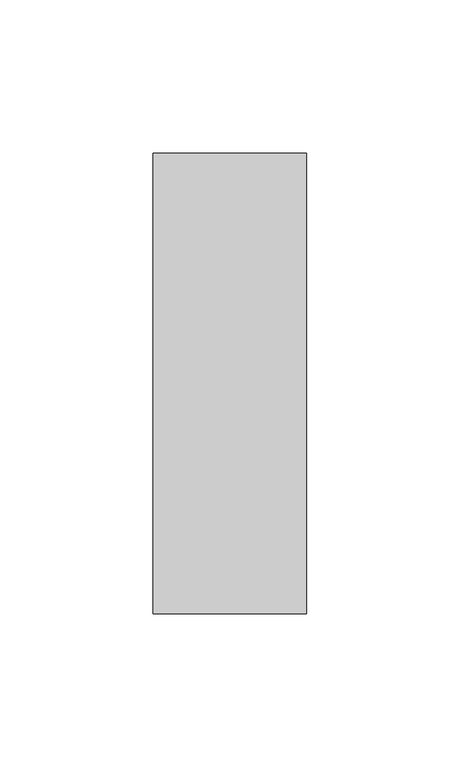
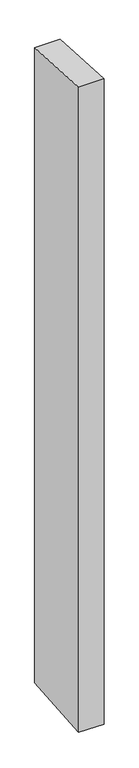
"""IFC4 building model written with IfcOpenShell, lengths in millimetres: member geometry, Прямоугольный импост : 50 x 150 мм."""

import ifcopenshell
import ifcopenshell.guid

model = None  # the IFC model being written
_history = None  # IfcOwnerHistory: only IFC2X3 demands one
_inside = {}  # id of a spatial element -> (the spatial element, [elements in it])
_under = {}  # id of a project, library or spatial element -> (it, [spatial elements below it])
_declared = {}  # id of a project -> (the project, [libraries it declares])
_typed = {}  # id of a type object -> (the type object, [elements of that type])
_made_of = {}  # id of a material, layer set ... -> (it, [elements and type objects made of it])


def new_model(schema):
    """Start an empty IFC model of exactly this schema.

    Asked for "IFC4X3", IfcOpenShell would pick the latest addendum, in which some entities
    have other attributes; the version numbers below select the first issue.
    IFC2X3 requires an IfcOwnerHistory on every rooted entity: one is made here for all.
    """
    global model, _history
    if schema == "IFC4X3":
        model = ifcopenshell.file(schema_version=(4, 3, 0, 0))
    else:
        model = ifcopenshell.file(schema=schema)
    _inside.clear()
    _under.clear()
    _declared.clear()
    _typed.clear()
    _made_of.clear()
    _history = None
    if model.schema == "IFC2X3":
        org = make("IfcOrganization", Name="unknown")
        user = make(
            "IfcPersonAndOrganization",
            ThePerson=make("IfcPerson", FamilyName="unknown"),
            TheOrganization=org,
        )
        app = make(
            "IfcApplication",
            ApplicationDeveloper=org,
            Version="unknown",
            ApplicationFullName="unknown",
            ApplicationIdentifier="unknown",
        )
        _history = make(
            "IfcOwnerHistory",
            OwningUser=user,
            OwningApplication=app,
            ChangeAction="ADDED",
            CreationDate=0,
        )
    return model


def make(cls, **values):
    """One entity of the class cls with the attributes given. An attribute that is None is left unset."""
    return model.create_entity(
        cls, **{name: value for name, value in values.items() if value is not None}
    )


def rooted(cls, **values):
    """An entity with a GlobalId (a new one), such as an element, a storey or a relation."""
    return make(cls, GlobalId=ifcopenshell.guid.new(), OwnerHistory=_history, **values)


def si_unit(unit_type, name, prefix=None):
    """IfcSIUnit, for example si_unit("LENGTHUNIT", "METRE", prefix="MILLI")."""
    return make("IfcSIUnit", UnitType=unit_type, Prefix=prefix, Name=name)


def assignment(units):
    """IfcUnitAssignment: the units of a project."""
    return None if units is None else make("IfcUnitAssignment", Units=units)


def point(xyz):
    """IfcCartesianPoint."""
    return None if xyz is None else make("IfcCartesianPoint", Coordinates=xyz)


def direction(xyz):
    """IfcDirection."""
    return None if xyz is None else make("IfcDirection", DirectionRatios=xyz)


def frame(location, z_axis=None, x_axis=None):
    """IfcAxis2Placement3D, a coordinate frame: its origin and axes. An axis left out is left unset."""
    return make(
        "IfcAxis2Placement3D",
        Location=point(location),
        Axis=direction(z_axis),
        RefDirection=direction(x_axis),
    )


def origin():
    """The frame at (0, 0, 0) with its axes left unset."""
    return frame((0.0, 0.0, 0.0))


def place(relative_to, where):
    """IfcLocalPlacement: puts the frame where relative to a parent placement (None: the world)."""
    return make(
        "IfcLocalPlacement", PlacementRelTo=relative_to, RelativePlacement=where
    )


def context(
    kind, dimensions, precision=None, world=None, true_north=None, identifier=None
):
    """IfcGeometricRepresentationContext, for example the 3D "Model" context."""
    return make(
        "IfcGeometricRepresentationContext",
        ContextIdentifier=identifier,
        ContextType=kind,
        CoordinateSpaceDimension=dimensions,
        Precision=precision,
        WorldCoordinateSystem=world,
        TrueNorth=true_north,
    )


def project(units=None, contexts=None):
    """IfcProject with its units and contexts."""
    return rooted(
        "IfcProject",
        Name="project",
        RepresentationContexts=contexts,
        UnitsInContext=assignment(units),
    )


def spatial(cls, under=None, at=None, **own):
    """A site, building, storey or space (cls), placed at a placement, below another one or the project."""
    s = rooted(cls, ObjectPlacement=at, **own)
    if under is not None:
        _under.setdefault(under.id(), (under, []))[1].append(s)
    return s


def faces_of(points, faces, orient=None, outer=None):
    """IfcFace entities. A face is a list of loops; a loop is a list of indices into points, from 0.

    orient and outer hold one flag for each loop. By default every Orientation is true, the
    first loop of a face is its IfcFaceOuterBound and the others are IfcFaceBound.
    """
    made = []
    for i, loops in enumerate(faces):
        bounds = []
        for j, loop in enumerate(loops):
            is_outer = j == 0 if outer is None else outer[i][j]
            bounds.append(
                make(
                    "IfcFaceOuterBound" if is_outer else "IfcFaceBound",
                    Bound=make("IfcPolyLoop", Polygon=[points[k] for k in loop]),
                    Orientation=True if orient is None else orient[i][j],
                )
            )
        made.append(make("IfcFace", Bounds=bounds))
    return made


def faceted_brep(points, faces, orient=None, outer=None, voids=None):
    """IfcFacetedBrep: a solid bounded by flat faces; with voids (closed shells), ...WithVoids."""
    shared = [point(p) for p in points]
    hull = make("IfcClosedShell", CfsFaces=faces_of(shared, faces, orient, outer))
    if voids is None:
        return make("IfcFacetedBrep", Outer=hull)
    return make(
        "IfcFacetedBrepWithVoids",
        Outer=hull,
        Voids=[
            make(cls, CfsFaces=faces_of(shared, fs, o, b)) for cls, fs, o, b in voids
        ],
    )


def shape(context_of_items, identifier, shape_type, items):
    """IfcShapeRepresentation: the items that make up one representation, for example the "Body"."""
    return make(
        "IfcShapeRepresentation",
        ContextOfItems=context_of_items,
        RepresentationIdentifier=identifier,
        RepresentationType=shape_type,
        Items=items,
    )


def source(mapping_origin, context_of_items, identifier, shape_type, items):
    """IfcRepresentationMap: a shape defined once, which mapped items show again and again."""
    return make(
        "IfcRepresentationMap",
        MappingOrigin=mapping_origin,
        MappedRepresentation=shape(context_of_items, identifier, shape_type, items),
    )


def transform(
    local_origin,
    x_axis=None,
    y_axis=None,
    z_axis=None,
    scale=None,
    scale2=None,
    scale3=None,
    uniform=True,
):
    """IfcCartesianTransformationOperator3D, or its non-uniform kind. x_axis, y_axis, z_axis: its Axis1, 2, 3."""
    if uniform:
        return make(
            "IfcCartesianTransformationOperator3D",
            Axis1=direction(x_axis),
            Axis2=direction(y_axis),
            LocalOrigin=point(local_origin),
            Scale=scale,
            Axis3=direction(z_axis),
        )
    return make(
        "IfcCartesianTransformationOperator3DnonUniform",
        Axis1=direction(x_axis),
        Axis2=direction(y_axis),
        LocalOrigin=point(local_origin),
        Scale=scale,
        Axis3=direction(z_axis),
        Scale2=scale2,
        Scale3=scale3,
    )


def mapped(mapping_source, mapping_target):
    """IfcMappedItem: shows the shape of a source again, moved by a transform."""
    return make(
        "IfcMappedItem", MappingSource=mapping_source, MappingTarget=mapping_target
    )


def made_of(thing, what):
    """Note that an element or type object is made of a material, layer set ...; save() writes the relation."""
    if what is not None:
        _made_of.setdefault(what.id(), (what, []))[1].append(thing)
    return thing


def element(
    cls,
    number,
    at=None,
    inside=None,
    cuts=None,
    type_object=None,
    material=None,
    context=None,
    identifier="Body",
    shape_type=None,
    held_by="IfcProductDefinitionShape",
    body=None,
    shapes=None,
    **own,
):
    """One element of the class cls, such as IfcWall. Its Tag is "e" and its number.

    at: its placement. inside: the storey or other place that contains it. cuts: it is an
    opening in that element (IfcRelVoidsElement). A single representation is given by context,
    identifier, shape_type and body (its items); several are given by shapes. held_by: the class
    of the entity that holds the representations. save() writes the other relations.
    """
    e = rooted(cls, Tag="e%d" % number, ObjectPlacement=at, **own)
    if body is not None:
        shapes = [shape(context, identifier, shape_type, body)]
    if shapes is not None:
        e.Representation = make(held_by, Representations=shapes)
    if inside is not None:
        _inside.setdefault(inside.id(), (inside, []))[1].append(e)
    if cuts is not None:
        rooted(
            "IfcRelVoidsElement", RelatingBuildingElement=cuts, RelatedOpeningElement=e
        )
    if type_object is not None:
        _typed.setdefault(type_object.id(), (type_object, []))[1].append(e)
    return made_of(e, material)


def aggregate(whole, parts):
    """IfcRelAggregates: a whole, such as a stair, and the parts it consists of."""
    return rooted("IfcRelAggregates", RelatingObject=whole, RelatedObjects=parts)


def save(model, path):
    """Write the relations noted so far, then the file.

    IfcRelAggregates (storeys below a building ...), IfcRelContainedInSpatialStructure (elements
    in a storey), IfcRelDefinesByType, IfcRelAssociatesMaterial and IfcRelDeclares: one each for
    every whole, place, type object, material and project.
    """
    for whole, parts in _under.values():
        aggregate(whole, parts)
    for where, things in _inside.values():
        rooted(
            "IfcRelContainedInSpatialStructure",
            RelatedElements=things,
            RelatingStructure=where,
        )
    for kind, things in _typed.values():
        rooted("IfcRelDefinesByType", RelatedObjects=things, RelatingType=kind)
    for what, things in _made_of.values():
        rooted("IfcRelAssociatesMaterial", RelatedObjects=things, RelatingMaterial=what)
    for by, libraries in _declared.values():
        rooted("IfcRelDeclares", RelatingContext=by, RelatedDefinitions=libraries)
    model.write(path)


def member_9b537b30(model_context):
    return source(origin(), model_context, "Body", "Brep", [
        faceted_brep([(-25.0, 75.0, -4.5395956), (25.0, 75.0, -4.2432279), (25.0, 75.0, -1325.9756581), (-25.0, 75.0, -1325.6978604), (-25.0, -75.0, 4.2432279), (-25.0, -75.0, -1338.4752586), (25.0, -75.0, 4.5395956), (25.0, -75.0, -1338.7530563)], [[[0, 1, 2, 3]], [[4, 0, 3, 5]], [[6, 4, 5, 7]], [[1, 6, 7, 2]], [[1, 0, 4, 6]], [[2, 7, 5, 3]]]),
    ])


if __name__ == "__main__":
    model = new_model("IFC4")
    model_context = context("Model", 3, world=origin())
    ifc_project = project(units=[si_unit("LENGTHUNIT", "METRE", prefix="MILLI")], contexts=[model_context])
    site = spatial("IfcSite", under=ifc_project)
    building = spatial("IfcBuilding", under=site)
    placement = place(None, origin())
    member_shape = member_9b537b30(model_context)
    element("IfcMember", 1, ObjectType="Прямоугольный импост : 50 x 150 мм", at=placement, inside=building, context=model_context, shape_type="MappedRepresentation", body=[
        mapped(member_shape, transform((0.0, 0.0, 0.0), x_axis=(1.0, 0.0, 0.0), y_axis=(0.0, 1.0, 0.0), z_axis=(0.0, 0.0, 1.0))),
    ])
    save(model, "model.ifc")
